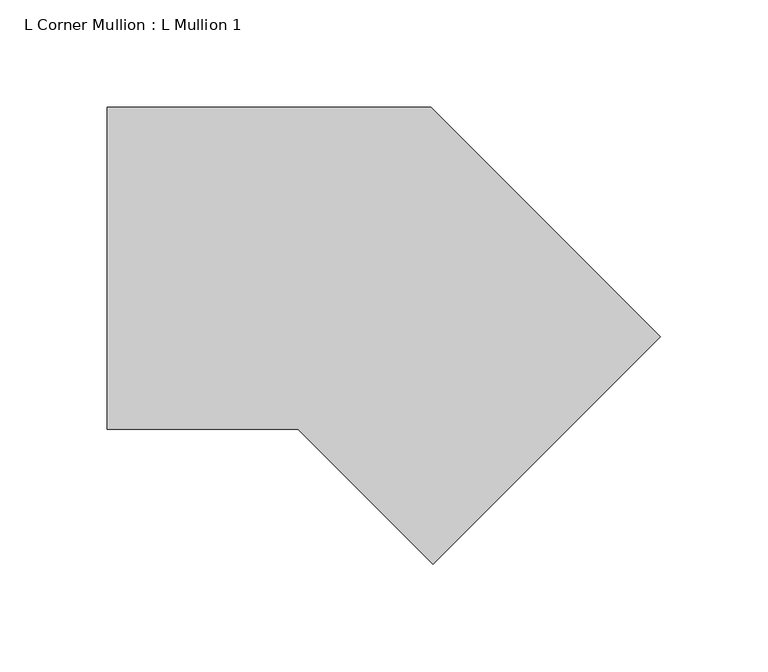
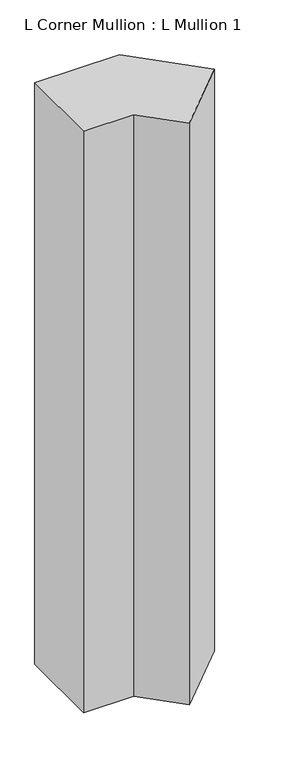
"""IFC4 building model written with IfcOpenShell, lengths in millimetres: member geometry, L Corner Mullion : L Mullion 1."""

from ifc_helpers import new_model, si_unit, frame, origin, place, context, project, spatial, polyline, outline, extrude, source, transform, mapped, element, save


def l_corner_mullion_l_mullion_1_6c701851(model_context):
    return source(origin(), model_context, "Body", "SweptSolid", [
        extrude(outline(polyline([(20.636039, -164.8858223), (-42.2497834, -102.0), (-131.1837662, -102.0), (-131.1837662, 48.0), (19.882251, 48.0), (126.7020561, -58.8198052), (20.636039, -164.8858223)])), frame((0.0, 0.0, -1091.7444455), z_axis=(0.0, 0.0, 1.0), x_axis=(1.0, 0.0, 0.0)), (0.0, 0.0, 1.0), 1091.7444455),
    ])


if __name__ == "__main__":
    model = new_model("IFC4")
    model_context = context("Model", 3, world=origin())
    ifc_project = project(units=[si_unit("LENGTHUNIT", "METRE", prefix="MILLI")], contexts=[model_context])
    site = spatial("IfcSite", under=ifc_project)
    building = spatial("IfcBuilding", under=site)
    placement = place(None, origin())
    l_corner_mullion_l_mullion_1_shape = l_corner_mullion_l_mullion_1_6c701851(model_context)
    element("IfcMember", 1, ObjectType="L Corner Mullion : L Mullion 1", at=placement, inside=building, context=model_context, shape_type="MappedRepresentation", body=[
        mapped(l_corner_mullion_l_mullion_1_shape, transform((0.0, 0.0, 0.0), x_axis=(1.0, 0.0, 0.0), y_axis=(0.0, 1.0, 0.0), z_axis=(0.0, 0.0, 1.0))),
    ])
    save(model, "model.ifc")
